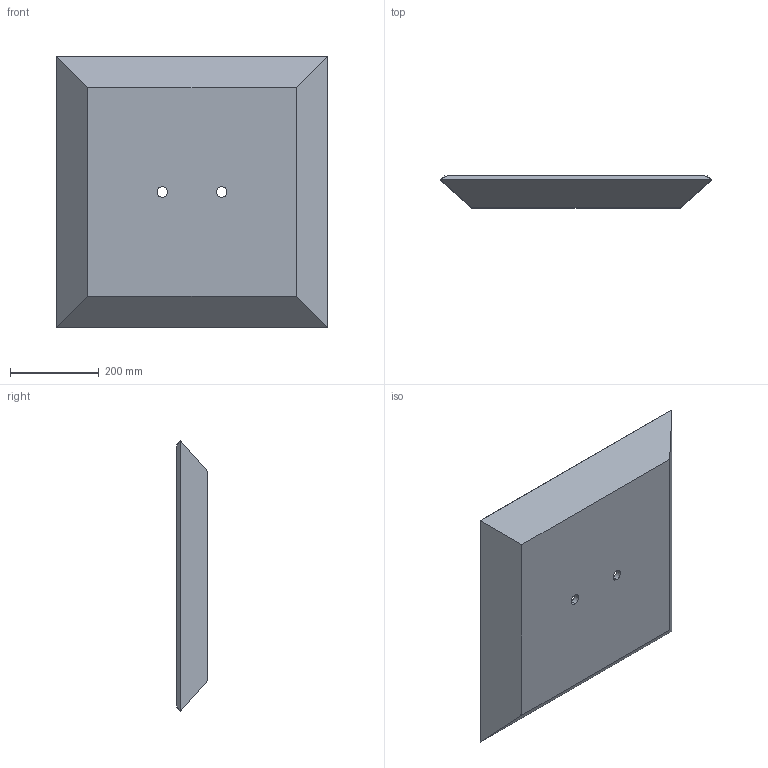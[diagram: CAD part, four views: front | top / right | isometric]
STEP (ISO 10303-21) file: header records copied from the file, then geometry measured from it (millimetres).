
FILE_DESCRIPTION (( 'STEP AP214' ), '1' );
FILE_NAME ('Spot Focus - Dual - 3 In Deep Assembly - V5.STEP', '2022-08-02T15:28:46', ( '' ), ( '' ), 'SwSTEP 2.0', 'SolidWorks 2020', '' );
FILE_SCHEMA (( 'AUTOMOTIVE_DESIGN' ));
Length unit declared in the file: inch
Products named in the file (3): Spot Focus - Dual - 3 In Deep Top - V5; Spot Focus - Dual - 3 In Deep Assembly - V5; 3 In Deep Extruded Tile Side - V5
Assembly tree (5 placements, depth 2):
  Spot Focus - Dual - 3 In Deep Assembly - V5
    Spot Focus - Dual - 3 In Deep Top - V5
    3 In Deep Extruded Tile Side - V5  x4
Bounding box: 609.6 x 71.4 x 609.6 mm (x, y, z)
Volume: 4758005.6 mm3; surface area: 897572.1 mm2
Topology: 5 solids, 5 shells, 34 faces, 72 edges, 48 vertices
Faces by surface type: plane 30, cylinder 4
Entity records: 604 total; most frequent: DIRECTION 92, CARTESIAN_POINT 84, ORIENTED_EDGE 72, EDGE_CURVE 36, AXIS2_PLACEMENT_3D 32, VECTOR 28, LINE 28, VERTEX_POINT 24
